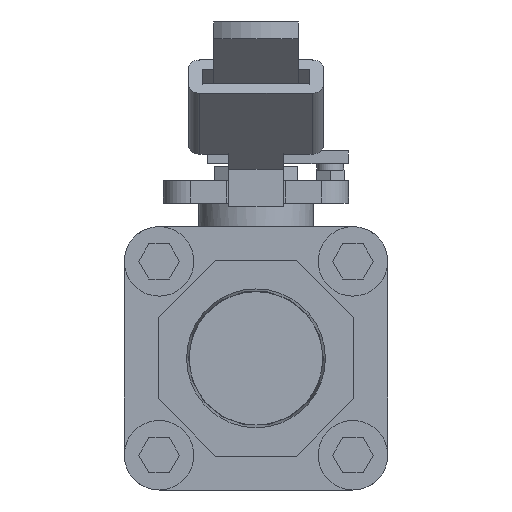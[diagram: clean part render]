
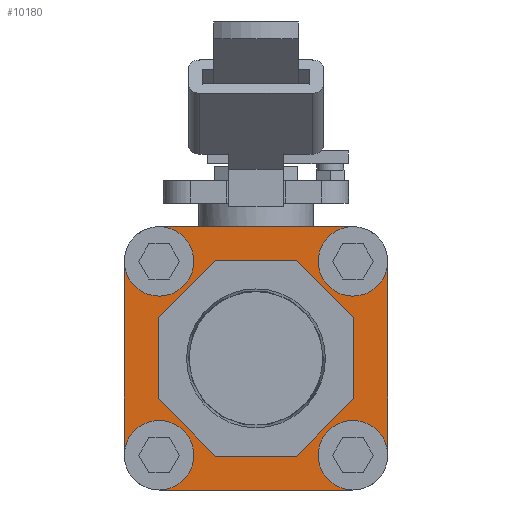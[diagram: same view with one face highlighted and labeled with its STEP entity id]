
A CAD part, left-side view. The second image highlights one B-rep face of the part: STEP entity #10180.
In plain terms, the highlighted planar face has unit normal (-1, 0, 0).
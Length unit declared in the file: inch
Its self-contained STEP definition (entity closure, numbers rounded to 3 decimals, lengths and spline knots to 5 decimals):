
#9833=CARTESIAN_POINT('',(0.65,-0.8725,0.3614));
#9834=VERTEX_POINT('',#9833);
#9835=CARTESIAN_POINT('',(0.65,-0.8725,-0.3614));
#9836=VERTEX_POINT('',#9835);
#9837=CARTESIAN_POINT('',(0.65,-0.8725,0.3614));
#9838=DIRECTION('',(0.0,0.0,-1.0));
#9839=VECTOR('',#9838,0.7228);
#9840=LINE('',#9837,#9839);
#9841=EDGE_CURVE('',#9834,#9836,#9840,.T.);
#9873=CARTESIAN_POINT('',(0.65,-0.3614,0.8725));
#9874=VERTEX_POINT('',#9873);
#9875=CARTESIAN_POINT('',(0.65,-0.3614,0.8725));
#9876=DIRECTION('',(0.0,-0.707,-0.707));
#9877=VECTOR('',#9876,0.7228);
#9878=LINE('',#9875,#9877);
#9879=EDGE_CURVE('',#9874,#9834,#9878,.T.);
#9904=CARTESIAN_POINT('',(0.65,0.3614,0.8725));
#9905=VERTEX_POINT('',#9904);
#9906=CARTESIAN_POINT('',(0.65,0.3614,0.8725));
#9907=DIRECTION('',(0.0,-1.0,0.0));
#9908=VECTOR('',#9907,0.7228);
#9909=LINE('',#9906,#9908);
#9910=EDGE_CURVE('',#9905,#9874,#9909,.T.);
#9935=CARTESIAN_POINT('',(0.65,0.8725,0.3614));
#9936=VERTEX_POINT('',#9935);
#9937=CARTESIAN_POINT('',(0.65,0.8725,0.3614));
#9938=DIRECTION('',(0.0,-0.707,0.707));
#9939=VECTOR('',#9938,0.7228);
#9940=LINE('',#9937,#9939);
#9941=EDGE_CURVE('',#9936,#9905,#9940,.T.);
#9966=CARTESIAN_POINT('',(0.65,0.8725,-0.3614));
#9967=VERTEX_POINT('',#9966);
#9968=CARTESIAN_POINT('',(0.65,0.8725,-0.3614));
#9969=DIRECTION('',(0.0,0.0,1.0));
#9970=VECTOR('',#9969,0.7228);
#9971=LINE('',#9968,#9970);
#9972=EDGE_CURVE('',#9967,#9936,#9971,.T.);
#9997=CARTESIAN_POINT('',(0.65,0.3614,-0.8725));
#9998=VERTEX_POINT('',#9997);
#9999=CARTESIAN_POINT('',(0.65,0.3614,-0.8725));
#10000=DIRECTION('',(0.0,0.707,0.707));
#10001=VECTOR('',#10000,0.7228);
#10002=LINE('',#9999,#10001);
#10003=EDGE_CURVE('',#9998,#9967,#10002,.T.);
#10028=CARTESIAN_POINT('',(0.65,-0.3614,-0.8725));
#10029=VERTEX_POINT('',#10028);
#10030=CARTESIAN_POINT('',(0.65,-0.3614,-0.8725));
#10031=DIRECTION('',(0.0,1.0,0.0));
#10032=VECTOR('',#10031,0.7228);
#10033=LINE('',#10030,#10032);
#10034=EDGE_CURVE('',#10029,#9998,#10033,.T.);
#10059=CARTESIAN_POINT('',(0.65,-0.8725,-0.3614));
#10060=DIRECTION('',(0.0,0.707,-0.707));
#10061=VECTOR('',#10060,0.7228);
#10062=LINE('',#10059,#10061);
#10063=EDGE_CURVE('',#9836,#10029,#10062,.T.);
#10095=CARTESIAN_POINT('',(0.65,0.0,0.0));
#10096=DIRECTION('',(1.0,0.0,0.0));
#10097=DIRECTION('',(0.0,0.0,-1.0));
#10098=AXIS2_PLACEMENT_3D('',#10095,#10096,#10097);
#10099=PLANE('',#10098);
#10100=CARTESIAN_POINT('',(0.65,-0.865,-1.175));
#10101=VERTEX_POINT('',#10100);
#10102=CARTESIAN_POINT('',(0.65,0.865,-1.175));
#10103=VERTEX_POINT('',#10102);
#10104=CARTESIAN_POINT('',(0.65,-0.865,-1.175));
#10105=DIRECTION('',(0.0,1.0,0.0));
#10106=VECTOR('',#10105,1.73);
#10107=LINE('',#10104,#10106);
#10108=EDGE_CURVE('',#10101,#10103,#10107,.T.);
#10109=ORIENTED_EDGE('',*,*,#10108,.F.);
#10110=CARTESIAN_POINT('',(0.65,-1.175,-0.865));
#10111=VERTEX_POINT('',#10110);
#10112=CARTESIAN_POINT('',(0.65,-0.865,-0.865));
#10113=DIRECTION('',(1.0,0.0,0.0));
#10114=DIRECTION('',(0.0,-0.707,-0.707));
#10115=AXIS2_PLACEMENT_3D('',#10112,#10113,#10114);
#10116=CIRCLE('',#10115,0.31);
#10117=EDGE_CURVE('',#10111,#10101,#10116,.T.);
#10118=ORIENTED_EDGE('',*,*,#10117,.F.);
#10119=CARTESIAN_POINT('',(0.65,-1.175,0.865));
#10120=VERTEX_POINT('',#10119);
#10121=CARTESIAN_POINT('',(0.65,-1.175,0.865));
#10122=DIRECTION('',(0.0,0.0,-1.0));
#10123=VECTOR('',#10122,1.73);
#10124=LINE('',#10121,#10123);
#10125=EDGE_CURVE('',#10120,#10111,#10124,.T.);
#10126=ORIENTED_EDGE('',*,*,#10125,.F.);
#10127=CARTESIAN_POINT('',(0.65,-0.865,1.175));
#10128=VERTEX_POINT('',#10127);
#10129=CARTESIAN_POINT('',(0.65,-0.865,0.865));
#10130=DIRECTION('',(1.0,0.0,0.0));
#10131=DIRECTION('',(0.0,-0.707,0.707));
#10132=AXIS2_PLACEMENT_3D('',#10129,#10130,#10131);
#10133=CIRCLE('',#10132,0.31);
#10134=EDGE_CURVE('',#10128,#10120,#10133,.T.);
#10135=ORIENTED_EDGE('',*,*,#10134,.F.);
#10136=CARTESIAN_POINT('',(0.65,0.865,1.175));
#10137=VERTEX_POINT('',#10136);
#10138=CARTESIAN_POINT('',(0.65,0.865,1.175));
#10139=DIRECTION('',(0.0,-1.0,0.0));
#10140=VECTOR('',#10139,1.73);
#10141=LINE('',#10138,#10140);
#10142=EDGE_CURVE('',#10137,#10128,#10141,.T.);
#10143=ORIENTED_EDGE('',*,*,#10142,.F.);
#10144=CARTESIAN_POINT('',(0.65,1.175,0.865));
#10145=VERTEX_POINT('',#10144);
#10146=CARTESIAN_POINT('',(0.65,0.865,0.865));
#10147=DIRECTION('',(1.0,0.0,0.0));
#10148=DIRECTION('',(0.0,0.707,0.707));
#10149=AXIS2_PLACEMENT_3D('',#10146,#10147,#10148);
#10150=CIRCLE('',#10149,0.31);
#10151=EDGE_CURVE('',#10145,#10137,#10150,.T.);
#10152=ORIENTED_EDGE('',*,*,#10151,.F.);
#10153=CARTESIAN_POINT('',(0.65,1.175,-0.865));
#10154=VERTEX_POINT('',#10153);
#10155=CARTESIAN_POINT('',(0.65,1.175,-0.865));
#10156=DIRECTION('',(0.0,0.0,1.0));
#10157=VECTOR('',#10156,1.73);
#10158=LINE('',#10155,#10157);
#10159=EDGE_CURVE('',#10154,#10145,#10158,.T.);
#10160=ORIENTED_EDGE('',*,*,#10159,.F.);
#10161=CARTESIAN_POINT('',(0.65,0.865,-0.865));
#10162=DIRECTION('',(1.0,0.0,0.0));
#10163=DIRECTION('',(0.0,0.707,-0.707));
#10164=AXIS2_PLACEMENT_3D('',#10161,#10162,#10163);
#10165=CIRCLE('',#10164,0.31);
#10166=EDGE_CURVE('',#10103,#10154,#10165,.T.);
#10167=ORIENTED_EDGE('',*,*,#10166,.F.);
#10168=EDGE_LOOP('',(#10109,#10118,#10126,#10135,#10143,#10152,#10160,#10167));
#10169=FACE_OUTER_BOUND('',#10168,.T.);
#10170=ORIENTED_EDGE('',*,*,#9841,.T.);
#10171=ORIENTED_EDGE('',*,*,#10063,.T.);
#10172=ORIENTED_EDGE('',*,*,#10034,.T.);
#10173=ORIENTED_EDGE('',*,*,#10003,.T.);
#10174=ORIENTED_EDGE('',*,*,#9972,.T.);
#10175=ORIENTED_EDGE('',*,*,#9941,.T.);
#10176=ORIENTED_EDGE('',*,*,#9910,.T.);
#10177=ORIENTED_EDGE('',*,*,#9879,.T.);
#10178=EDGE_LOOP('',(#10170,#10171,#10172,#10173,#10174,#10175,#10176,#10177));
#10179=FACE_BOUND('',#10178,.T.);
#10180=ADVANCED_FACE('',(#10169,#10179),#10099,.F.);
